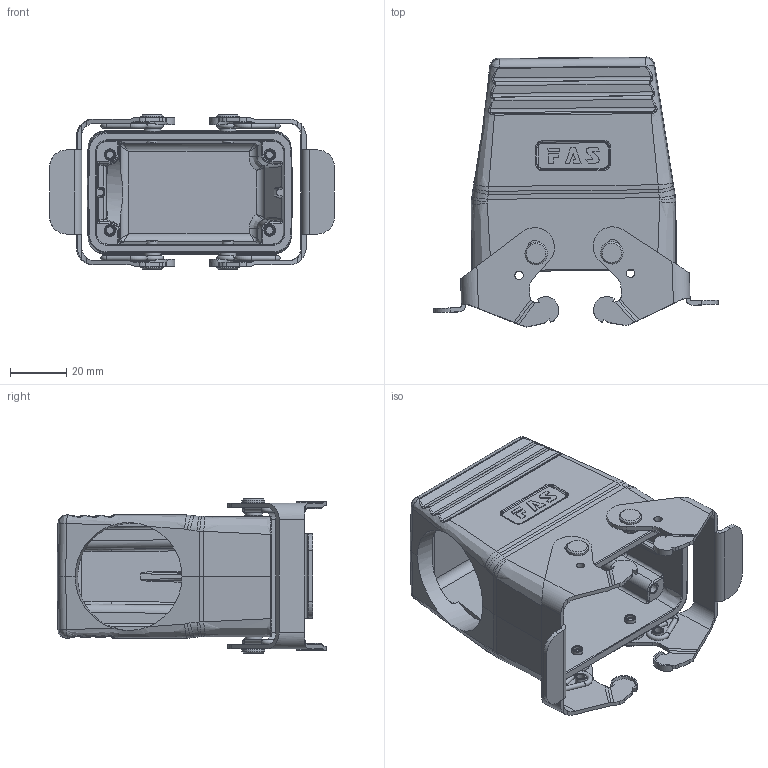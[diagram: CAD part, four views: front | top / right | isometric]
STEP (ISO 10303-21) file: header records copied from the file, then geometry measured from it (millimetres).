
FILE_DESCRIPTION (( 'STEP AP203' ), '1' );
FILE_NAME ('H10B-TBFH-M40.STEP', '2023-06-06T07:51:35', ( '' ), ( '' ), 'SwSTEP 2.0', 'SolidWorks 2016', '' );
FILE_SCHEMA (( 'CONFIG_CONTROL_DESIGN' ));
Length unit declared in the file: millimetre
Products named in the file (1): H10B-TBFH-M40
Bounding box: 101.6 x 96.29 x 55 mm (x, y, z)
Volume: 76937.9 mm3; surface area: 45226.1 mm2
Topology: 1 solids, 1 shells, 716 faces, 1904 edges, 1217 vertices
Faces by surface type: plane 260, cylinder 256, bspline 112, torus 60, cone 24, sphere 4
Full cylindrical faces by diameter (mm): 1.8 x4, 3 x8, 3.3 x4, 4 x10, 6 x4, 8 x4, 38.5 x1
Entity records: 32786 total; most frequent: CARTESIAN_POINT 17226, ORIENTED_EDGE 3576, DIRECTION 2646, EDGE_CURVE 1788, VERTEX_POINT 1170, AXIS2_PLACEMENT_3D 975, EDGE_LOOP 834, FACE_OUTER_BOUND 757
